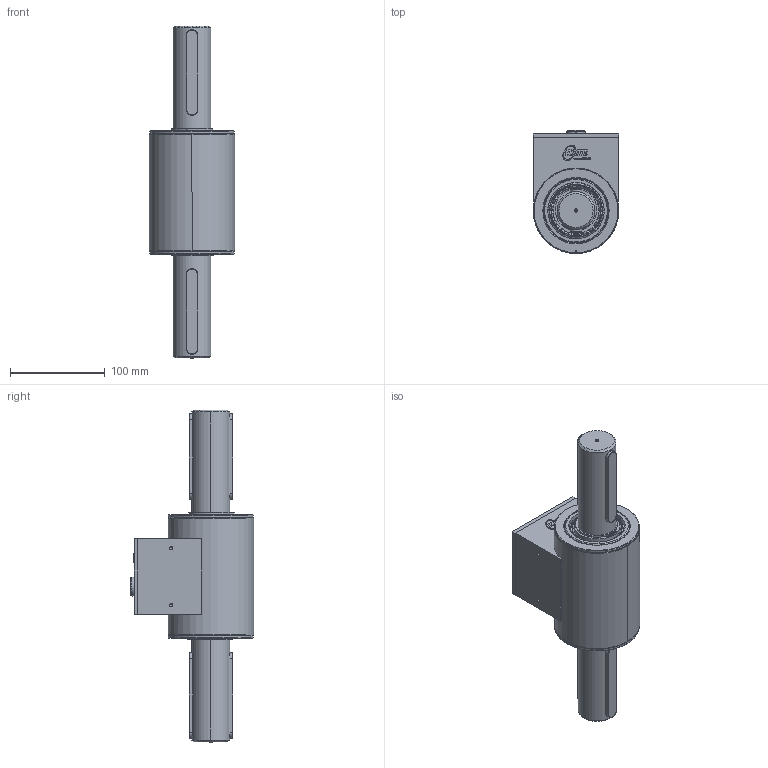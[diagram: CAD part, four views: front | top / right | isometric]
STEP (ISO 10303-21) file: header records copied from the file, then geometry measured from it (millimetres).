
FILE_DESCRIPTION (( 'STEP AP214' ), '1' );
FILE_NAME ('400007-ATS020_Sensor_Mb_1000-2000Nm_Rund_ohne_WS_IP50.STEP', '2016-11-29T10:02:04', ( '' ), ( '' ), 'SwSTEP 2.0', 'SolidWorks 2016', '' );
FILE_SCHEMA (( 'AUTOMOTIVE_DESIGN' ));
Length unit declared in the file: millimetre
Products named in the file (15): Seegering DIN 471_Circlip DIN 471 - 40 x 1.75; Passscheibe DIN 988_DIN 988-55x68x0.5; 400007-ATM017_Elektronikgehaeuse_Mb_1000-2000Nm; Senkschraube mit Innensechskant DIN 7991_DIN 7991 - M3 x 10 --- 10S; 999999-ATE042_Buchse-09-0132-90-12_12Pol_Standard; 400007-ATM011_Rohrgehaeuse_Mb-1000-2000Nm; 400007-ATM020_Deckel_Elektronikgehäuse_Mb_1000-2000Nm; 400007-ATM005_Welle40mm_Mb_1000-2000Nm; 999999-ATE072_Folientaster beleuchtet_Standard; Passfeder_Parallel key A12 x 8 x 90 DIN 6885; Senkschraube mit Innensechskant DIN 7991_DIN 7991 - M4 x 10 --- 10S; 999999-ATM003-Tellerfeder_k_vorgespannt67,5x50,5x0,7_Standard; 400007-ATS020_Sensor_Mb_1000-2000Nm_Rund_ohne_WS_IP50; Kugellager DIN 625_DIN 625 - 6008 - Full,DE,AC,Full_68; 400007-ATM014_Lagerdeckel_Mb-1000-2000Nm
Assembly tree (29 placements, depth 2):
  400007-ATS020_Sensor_Mb_1000-2000Nm_Rund_ohne_WS_IP50
    400007-ATM005_Welle40mm_Mb_1000-2000Nm
    400007-ATM011_Rohrgehaeuse_Mb-1000-2000Nm
    Senkschraube mit Innensechskant DIN 7991_DIN 7991 - M3 x 10 --- 10S  x8
    400007-ATM014_Lagerdeckel_Mb-1000-2000Nm  x2
    400007-ATM017_Elektronikgehaeuse_Mb_1000-2000Nm
    Senkschraube mit Innensechskant DIN 7991_DIN 7991 - M4 x 10 --- 10S  x2
    999999-ATE072_Folientaster beleuchtet_Standard
    999999-ATE042_Buchse-09-0132-90-12_12Pol_Standard
    400007-ATM020_Deckel_Elektronikgehäuse_Mb_1000-2000Nm
    Seegering DIN 471_Circlip DIN 471 - 40 x 1.75  x2
    Kugellager DIN 625_DIN 625 - 6008 - Full,DE,AC,Full_68  x2
    Passscheibe DIN 988_DIN 988-55x68x0.5  x2
    999999-ATM003-Tellerfeder_k_vorgespannt67,5x50,5x0,7_Standard
    Passfeder_Parallel key A12 x 8 x 90 DIN 6885  x4
Bounding box: 90 x 129.79 x 350 mm (x, y, z)
Surface area: 282955.3 mm2 (no closed solid volume)
Topology: 0 solids, 29 shells, 2466 faces, 6153 edges, 3698 vertices
Faces by surface type: cone 790, cylinder 658, bspline 571, plane 443, torus 4
Entity records: 50135 total; most frequent: CARTESIAN_POINT 21935, ORIENTED_EDGE 6170, DIRECTION 5133, EDGE_CURVE 3085, VERTEX_POINT 1957, AXIS2_PLACEMENT_3D 1949, EDGE_LOOP 1372, VECTOR 1235
